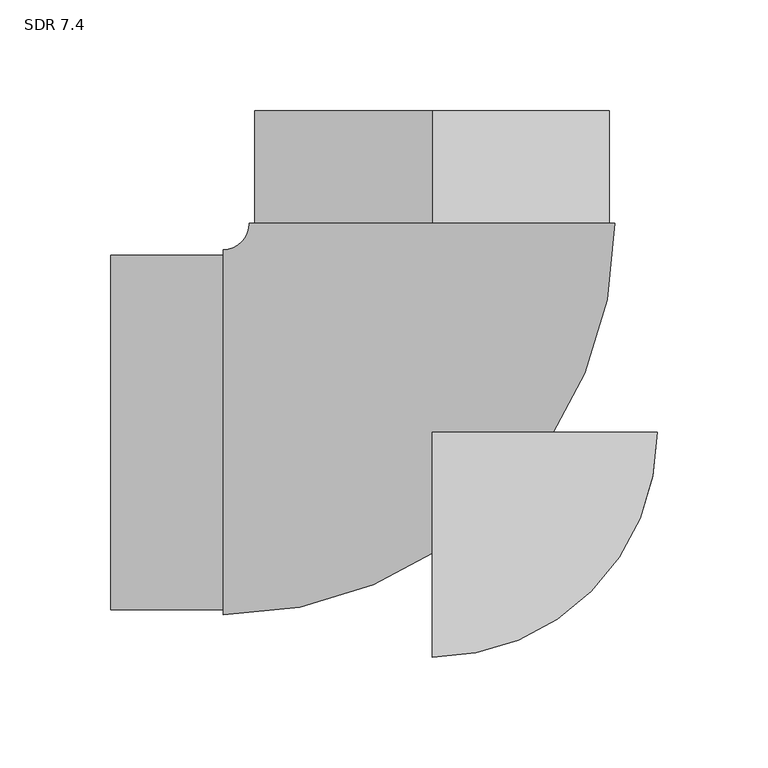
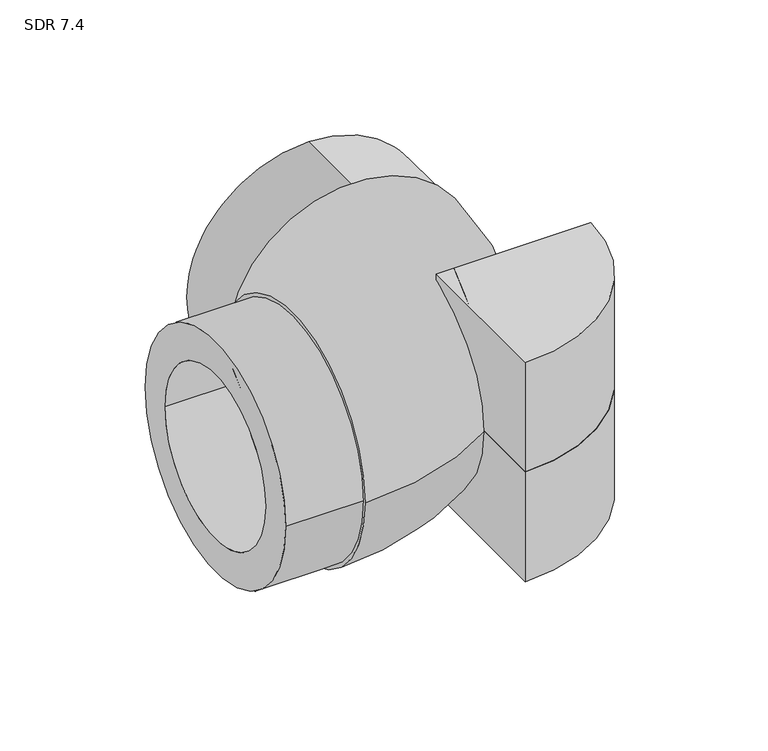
"""IFC4 building model written with IfcOpenShell, lengths in millimetres: pipe fitting geometry, Aquatherm - Elbow BW Molded : SDR 7.4."""

from ifc_helpers import new_model, si_unit, point, frame, frame_2d, origin, origin_with_axes, origin_2d, place, context, project, spatial, polyline, circle_curve, ellipse_curve, trimmed, segment, composite_curve, outline, extrude, source, transform, mapped, element, save
from ifc_brep_helpers import plane_surface, revolved_surface, advanced_brep


def sdr_7_4_5a13ccdb(model_context):
    return source(origin(), model_context, "Body", "SolidModel", [
        extrude(outline(composite_curve([segment(polyline([(0.0, -101.6), (0.0, 0.0), (101.5999999, 0.0049209)]), True, "CONTINUOUS"), segment(trimmed(circle_curve(origin_2d(), 101.6), [point((101.5999999, 0.0049209))], [point((0.0, -101.6))], False, "CARTESIAN"), True, "CONTINUOUS")], self_intersect=False)), frame((0.0, 0.0, -76.2), z_axis=(0.0, 0.0, 1.0), x_axis=(1.0, 0.0, 0.0)), (0.0, 0.0, 1.0), 76.2),
        extrude(outline(composite_curve([segment(trimmed(circle_curve(origin_2d(), 101.6), [point((101.5999999, 0.0049209))], [point((0.0, -101.6))], False, "CARTESIAN"), True, "CONTINUOUS"), segment(polyline([(0.0, -101.6), (0.0, 0.0), (101.5999999, 0.0049209)]), True, "CONTINUOUS")], self_intersect=False)), origin_with_axes(), (0.0, 0.0, 1.0), 76.2),
        extrude(outline(composite_curve([segment(trimmed(circle_curve(frame_2d((0.0, -80.01)), 80.01), [point((0.0, -160.02))], [point((0.0, 0.0))], False, "CARTESIAN"), True, "CONTINUOUS"), segment(trimmed(circle_curve(frame_2d((0.0, -80.01)), 80.01), [point((0.0, 0.0))], [point((0.0, -160.02))], False, "CARTESIAN"), True, "CONTINUOUS")], self_intersect=False), holes=[composite_curve([segment(trimmed(circle_curve(frame_2d((0.0, -80.01)), 57.15), [point((0.0, -137.16))], [point((0.0, -22.86))], True, "CARTESIAN"), True, "CONTINUOUS"), segment(trimmed(circle_curve(frame_2d((0.0, -80.01)), 57.15), [point((0.0, -22.86))], [point((0.0, -137.16))], True, "CARTESIAN"), True, "CONTINUOUS")], self_intersect=False)]), frame((-0.004566, 94.2720999, 80.01), z_axis=(-4.843451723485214e-05, 0.9999999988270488, 0.0), x_axis=(-0.9999999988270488, -4.843451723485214e-05, 0.0)), (0.0, 0.0, 1.0), 50.7619),
        extrude(outline(composite_curve([segment(trimmed(circle_curve(frame_2d((-0.1496481, 0.0)), 80.01), [point((79.8603519, 0.0))], [point((-80.1596481, 0.0))], False, "CARTESIAN"), True, "CONTINUOUS"), segment(trimmed(circle_curve(frame_2d((-0.1496481, 0.0)), 80.01), [point((-80.1596481, 0.0))], [point((79.8603519, 0.0))], False, "CARTESIAN"), True, "CONTINUOUS")], self_intersect=False), holes=[composite_curve([segment(trimmed(circle_curve(origin_2d(), 57.15), [point((57.15, 0.0))], [point((-57.15, 0.0))], True, "CARTESIAN"), True, "CONTINUOUS"), segment(trimmed(circle_curve(origin_2d(), 57.15), [point((-57.15, 0.0))], [point((57.15, 0.0))], True, "CARTESIAN"), True, "CONTINUOUS")], self_intersect=False)]), frame((-145.034, 0.0, 0.0), z_axis=(1.0, 0.0, 0.0), x_axis=(0.0, 1.0, 0.0)), (0.0, 0.0, 1.0), 50.7619),
        advanced_brep(
        [(-94.2721, -82.4103, 0.0), (-94.2721, 82.4103, 0.0), (-94.2721, -57.15, 0.0), (-94.2721, 57.15, 0.0), (82.4057339, 94.2760914, 0.0), (-82.4148659, 94.2681084, 0.0), (57.1454339, 94.2748679, 0.0), (-57.154566, 94.2693319, 0.0)],
        [
            (0, 1, circle_curve(frame((-94.2721, 0.0, 0.0), z_axis=(-1.0, 0.0, 0.0), x_axis=(0.0, 1.0, 0.0)), 82.4103)),
            (1, 0, circle_curve(frame((-94.2721, 0.0, 0.0), z_axis=(-1.0, 0.0, 0.0), x_axis=(0.0, 1.0, 0.0)), 82.4103)),
            (2, 3, circle_curve(frame((-94.2721, 0.0, 0.0), z_axis=(1.0, 0.0, 0.0), x_axis=(0.0, 1.0, 0.0)), 57.15)),
            (3, 2, circle_curve(frame((-94.2721, 0.0, 0.0), z_axis=(1.0, 0.0, 0.0), x_axis=(0.0, 1.0, 0.0)), 57.15)),
            (4, 5, circle_curve(frame((-0.004566, 94.2720999, 0.0), z_axis=(-4.843451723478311e-05, 0.9999999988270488, 0.0), x_axis=(-0.9999999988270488, -4.843451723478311e-05, 0.0)), 82.4103)),
            (5, 4, circle_curve(frame((-0.004566, 94.2720999, 0.0), z_axis=(-4.843451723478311e-05, 0.9999999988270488, 0.0), x_axis=(-0.9999999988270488, -4.843451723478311e-05, 0.0)), 82.4103)),
            (6, 7, circle_curve(frame((-0.004566, 94.2720999, 0.0), z_axis=(4.843451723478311e-05, -0.9999999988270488, 0.0), x_axis=(-0.9999999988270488, -4.843451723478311e-05, 0.0)), 57.15)),
            (7, 6, circle_curve(frame((-0.004566, 94.2720999, 0.0), z_axis=(4.843451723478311e-05, -0.9999999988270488, 0.0), x_axis=(-0.9999999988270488, -4.843451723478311e-05, 0.0)), 57.15)),
            (5, 1, circle_curve(frame((-94.2721, 94.2675341, 0.0), z_axis=(0.0, 0.0, -1.0), x_axis=(0.0, -1.0, 0.0)), 11.8572341)),
            (0, 4, circle_curve(frame((-94.2721, 94.2675341, 0.0), z_axis=(0.0, 0.0, 1.0), x_axis=(0.0, -1.0, 0.0)), 176.6778341)),
            (7, 3, circle_curve(frame((-94.2721, 94.2675341, 0.0), z_axis=(0.0, 0.0, -1.0), x_axis=(0.0, -1.0, 0.0)), 37.1175341)),
            (2, 6, circle_curve(frame((-94.2721, 94.2675341, 0.0), z_axis=(0.0, 0.0, 1.0), x_axis=(0.0, -1.0, 0.0)), 151.4175341)),
        ],
        [
            plane_surface(frame((-94.2721, 0.0, 0.0), z_axis=(-1.0, 0.0, 0.0), x_axis=(0.0, 0.0, 1.0))),
            plane_surface(frame((-0.004566, 94.2720999, 0.0), z_axis=(-4.843451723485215e-05, 0.9999999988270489, 0.0), x_axis=(0.0, 0.0, 1.0))),
            revolved_surface(trimmed(ellipse_curve(frame((-94.2721, 0.0, 0.0), z_axis=(-1.0, 0.0, 0.0), x_axis=(0.0, 1.0, 0.0)), 82.4103, 82.4103), [point((-94.2721, -82.4103, 0.0))], [point((-94.2721, 82.4103, 0.0))], True, "CARTESIAN"), (-94.2721, 94.2675341, 0.0), (0.0, 0.0, 1.0)),
            revolved_surface(trimmed(ellipse_curve(frame((-94.2721, 0.0, 0.0), z_axis=(-1.0, 0.0, 0.0), x_axis=(0.0, 1.0, 0.0)), 82.4103, 82.4103), [point((-94.2721, 82.4103, 0.0))], [point((-94.2721, -82.4103, 0.0))], True, "CARTESIAN"), (-94.2721, 94.2675341, 0.0), (0.0, 0.0, 1.0)),
            revolved_surface(trimmed(ellipse_curve(frame((-94.2721, 0.0, 0.0), z_axis=(1.0, 0.0, 0.0), x_axis=(0.0, 1.0, 0.0)), 57.15, 57.15), [point((-94.2721, -57.15, 0.0))], [point((-94.2721, 57.15, 0.0))], True, "CARTESIAN"), (-94.2721, 94.2675341, 0.0), (0.0, 0.0, 1.0)),
            revolved_surface(trimmed(ellipse_curve(frame((-94.2721, 0.0, 0.0), z_axis=(1.0, 0.0, 0.0), x_axis=(0.0, 1.0, 0.0)), 57.15, 57.15), [point((-94.2721, 57.15, 0.0))], [point((-94.2721, -57.15, 0.0))], True, "CARTESIAN"), (-94.2721, 94.2675341, 0.0), (0.0, 0.0, 1.0)),
        ],
        [
            (0, [[1, 2], [3, 4]]),
            (1, [[5, 6], [7, 8]]),
            (2, [[9, -1, 10, -6]]),
            (3, [[-10, -2, -9, -5]]),
            (4, [[11, -3, 12, -8]]),
            (5, [[-12, -4, -11, -7]]),
        ],
    ),
    ])


if __name__ == "__main__":
    model = new_model("IFC4")
    model_context = context("Model", 3, world=origin())
    ifc_project = project(units=[si_unit("LENGTHUNIT", "METRE", prefix="MILLI")], contexts=[model_context])
    site = spatial("IfcSite", under=ifc_project)
    building = spatial("IfcBuilding", under=site)
    placement = place(None, origin())
    sdr_7_4_shape = sdr_7_4_5a13ccdb(model_context)
    element("IfcPipeFitting", 1, ObjectType="Aquatherm - Elbow BW Molded : SDR 7.4", at=placement, inside=building, context=model_context, shape_type="MappedRepresentation", body=[
        mapped(sdr_7_4_shape, transform((0.0, 0.0, 0.0), x_axis=(1.0, 0.0, 0.0), y_axis=(0.0, 1.0, 0.0), z_axis=(0.0, 0.0, 1.0))),
    ])
    save(model, "model.ifc")
